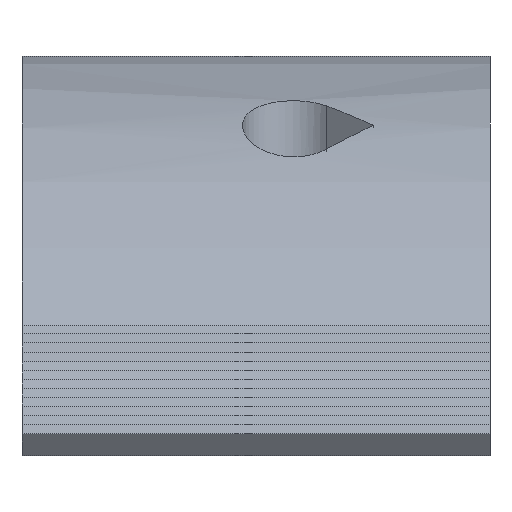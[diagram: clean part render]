
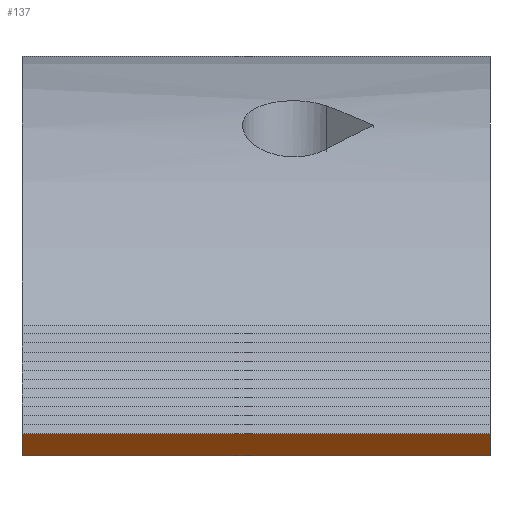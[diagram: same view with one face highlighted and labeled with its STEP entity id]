
A CAD part, front view. The second image highlights one B-rep face of the part: STEP entity #137.
In plain terms, the highlighted planar face has unit normal (0, -0.342, -0.94).
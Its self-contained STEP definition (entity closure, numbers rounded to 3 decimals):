
#22 = VERTEX_POINT('',#23);
#23 = CARTESIAN_POINT('',(288.,-17.459,6.355));
#32 = PLANE('',#33);
#33 = AXIS2_PLACEMENT_3D('',#34,#35,#36);
#34 = CARTESIAN_POINT('',(291.875,-17.459,6.355));
#35 = DIRECTION('',(0.,0.937,-0.35));
#36 = DIRECTION('',(0.,0.35,0.937));
#44 = PLANE('',#45);
#45 = AXIS2_PLACEMENT_3D('',#46,#47,#48);
#46 = CARTESIAN_POINT('',(288.,-17.459,6.355));
#47 = DIRECTION('',(1.,0.,0.));
#48 = DIRECTION('',(-0.,1.,0.));
#85 = VERTEX_POINT('',#86);
#86 = CARTESIAN_POINT('',(303.5,-17.459,6.355));
#100 = PLANE('',#101);
#101 = AXIS2_PLACEMENT_3D('',#102,#103,#104);
#102 = CARTESIAN_POINT('',(303.5,-17.459,6.355));
#103 = DIRECTION('',(1.,0.,0.));
#104 = DIRECTION('',(-0.,1.,0.));
#112 = EDGE_CURVE('',#22,#85,#113,.T.);
#113 = SURFACE_CURVE('',#114,(#118,#125),.PCURVE_S1.);
#114 = LINE('',#115,#116);
#115 = CARTESIAN_POINT('',(288.,-17.459,6.355));
#116 = VECTOR('',#117,1.);
#117 = DIRECTION('',(1.,0.,0.));
#118 = PCURVE('',#32,#119);
#119 = DEFINITIONAL_REPRESENTATION('',(#120),#124);
#120 = LINE('',#121,#122);
#121 = CARTESIAN_POINT('',(0.,-3.875));
#122 = VECTOR('',#123,1.);
#123 = DIRECTION('',(0.,1.));
#124 = ( GEOMETRIC_REPRESENTATION_CONTEXT(2) 
PARAMETRIC_REPRESENTATION_CONTEXT() REPRESENTATION_CONTEXT('2D SPACE',''
  ) );
#125 = PCURVE('',#126,#131);
#126 = PLANE('',#127);
#127 = AXIS2_PLACEMENT_3D('',#128,#129,#130);
#128 = CARTESIAN_POINT('',(291.875,-15.458,5.626));
#129 = DIRECTION('',(-0.,0.342,0.94));
#130 = DIRECTION('',(0.,-0.94,0.342));
#131 = DEFINITIONAL_REPRESENTATION('',(#132),#136);
#132 = LINE('',#133,#134);
#133 = CARTESIAN_POINT('',(2.13,-3.875));
#134 = VECTOR('',#135,1.);
#135 = DIRECTION('',(0.,1.));
#136 = ( GEOMETRIC_REPRESENTATION_CONTEXT(2) 
PARAMETRIC_REPRESENTATION_CONTEXT() REPRESENTATION_CONTEXT('2D SPACE',''
  ) );
#137 = ADVANCED_FACE('',(#138),#126,.F.);
#138 = FACE_BOUND('',#139,.F.);
#139 = EDGE_LOOP('',(#140,#163,#164,#187));
#140 = ORIENTED_EDGE('',*,*,#141,.T.);
#141 = EDGE_CURVE('',#142,#22,#144,.T.);
#142 = VERTEX_POINT('',#143);
#143 = CARTESIAN_POINT('',(288.,-15.458,5.626));
#144 = SURFACE_CURVE('',#145,(#149,#156),.PCURVE_S1.);
#145 = LINE('',#146,#147);
#146 = CARTESIAN_POINT('',(288.,-15.458,5.626));
#147 = VECTOR('',#148,1.);
#148 = DIRECTION('',(0.,-0.94,0.342));
#149 = PCURVE('',#126,#150);
#150 = DEFINITIONAL_REPRESENTATION('',(#151),#155);
#151 = LINE('',#152,#153);
#152 = CARTESIAN_POINT('',(0.,-3.875));
#153 = VECTOR('',#154,1.);
#154 = DIRECTION('',(1.,0.));
#155 = ( GEOMETRIC_REPRESENTATION_CONTEXT(2) 
PARAMETRIC_REPRESENTATION_CONTEXT() REPRESENTATION_CONTEXT('2D SPACE',''
  ) );
#156 = PCURVE('',#44,#157);
#157 = DEFINITIONAL_REPRESENTATION('',(#158),#162);
#158 = LINE('',#159,#160);
#159 = CARTESIAN_POINT('',(2.002,-0.729));
#160 = VECTOR('',#161,1.);
#161 = DIRECTION('',(-0.94,0.342));
#162 = ( GEOMETRIC_REPRESENTATION_CONTEXT(2) 
PARAMETRIC_REPRESENTATION_CONTEXT() REPRESENTATION_CONTEXT('2D SPACE',''
  ) );
#163 = ORIENTED_EDGE('',*,*,#112,.T.);
#164 = ORIENTED_EDGE('',*,*,#165,.F.);
#165 = EDGE_CURVE('',#166,#85,#168,.T.);
#166 = VERTEX_POINT('',#167);
#167 = CARTESIAN_POINT('',(303.5,-15.458,5.626));
#168 = SURFACE_CURVE('',#169,(#173,#180),.PCURVE_S1.);
#169 = LINE('',#170,#171);
#170 = CARTESIAN_POINT('',(303.5,-15.458,5.626));
#171 = VECTOR('',#172,1.);
#172 = DIRECTION('',(0.,-0.94,0.342));
#173 = PCURVE('',#126,#174);
#174 = DEFINITIONAL_REPRESENTATION('',(#175),#179);
#175 = LINE('',#176,#177);
#176 = CARTESIAN_POINT('',(0.,11.625));
#177 = VECTOR('',#178,1.);
#178 = DIRECTION('',(1.,0.));
#179 = ( GEOMETRIC_REPRESENTATION_CONTEXT(2) 
PARAMETRIC_REPRESENTATION_CONTEXT() REPRESENTATION_CONTEXT('2D SPACE',''
  ) );
#180 = PCURVE('',#100,#181);
#181 = DEFINITIONAL_REPRESENTATION('',(#182),#186);
#182 = LINE('',#183,#184);
#183 = CARTESIAN_POINT('',(2.002,-0.729));
#184 = VECTOR('',#185,1.);
#185 = DIRECTION('',(-0.94,0.342));
#186 = ( GEOMETRIC_REPRESENTATION_CONTEXT(2) 
PARAMETRIC_REPRESENTATION_CONTEXT() REPRESENTATION_CONTEXT('2D SPACE',''
  ) );
#187 = ORIENTED_EDGE('',*,*,#188,.F.);
#188 = EDGE_CURVE('',#142,#166,#189,.T.);
#189 = SURFACE_CURVE('',#190,(#194,#201),.PCURVE_S1.);
#190 = LINE('',#191,#192);
#191 = CARTESIAN_POINT('',(288.,-15.458,5.626));
#192 = VECTOR('',#193,1.);
#193 = DIRECTION('',(1.,0.,0.));
#194 = PCURVE('',#126,#195);
#195 = DEFINITIONAL_REPRESENTATION('',(#196),#200);
#196 = LINE('',#197,#198);
#197 = CARTESIAN_POINT('',(0.,-3.875));
#198 = VECTOR('',#199,1.);
#199 = DIRECTION('',(0.,1.));
#200 = ( GEOMETRIC_REPRESENTATION_CONTEXT(2) 
PARAMETRIC_REPRESENTATION_CONTEXT() REPRESENTATION_CONTEXT('2D SPACE',''
  ) );
#201 = PCURVE('',#202,#207);
#202 = PLANE('',#203);
#203 = AXIS2_PLACEMENT_3D('',#204,#205,#206);
#204 = CARTESIAN_POINT('',(291.875,-15.357,5.895));
#205 = DIRECTION('',(0.,-0.937,0.35));
#206 = DIRECTION('',(0.,-0.35,-0.937));
#207 = DEFINITIONAL_REPRESENTATION('',(#208),#212);
#208 = LINE('',#209,#210);
#209 = CARTESIAN_POINT('',(0.287,-3.875));
#210 = VECTOR('',#211,1.);
#211 = DIRECTION('',(0.,1.));
#212 = ( GEOMETRIC_REPRESENTATION_CONTEXT(2) 
PARAMETRIC_REPRESENTATION_CONTEXT() REPRESENTATION_CONTEXT('2D SPACE',''
  ) );
